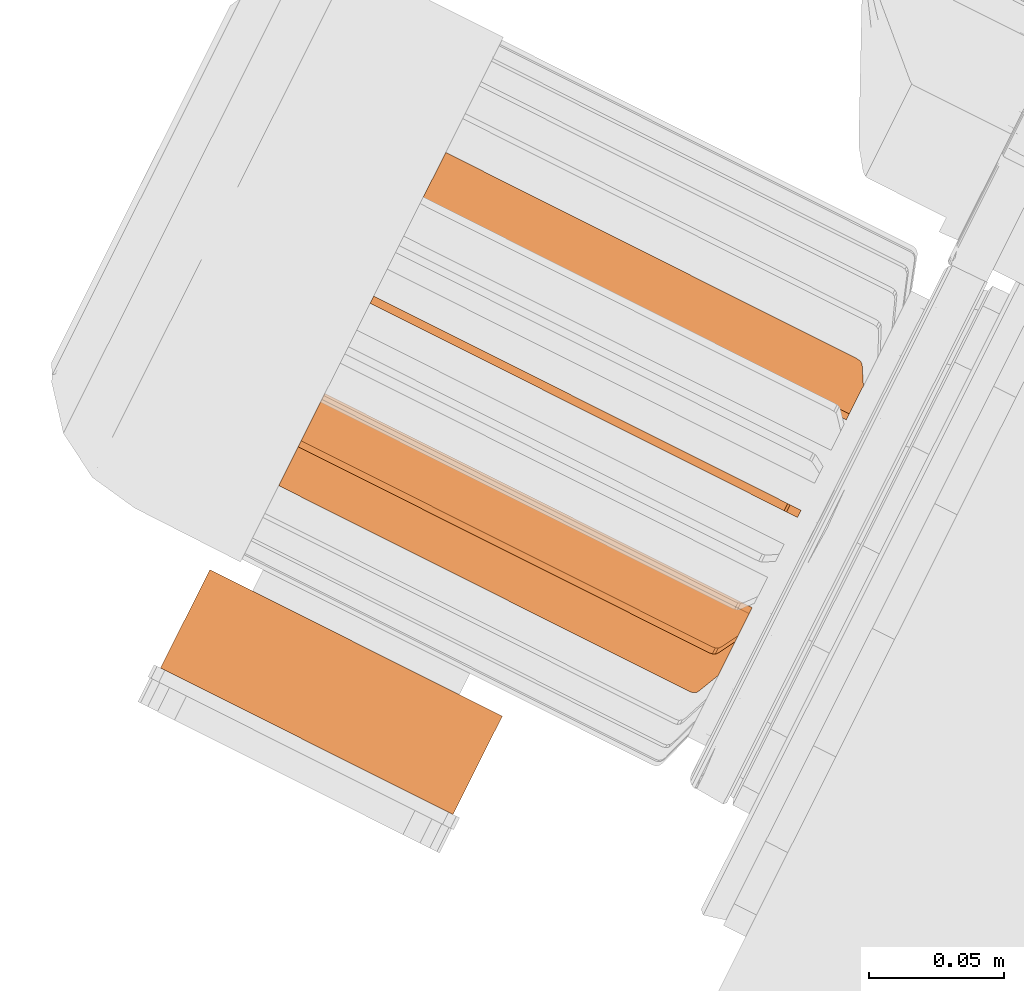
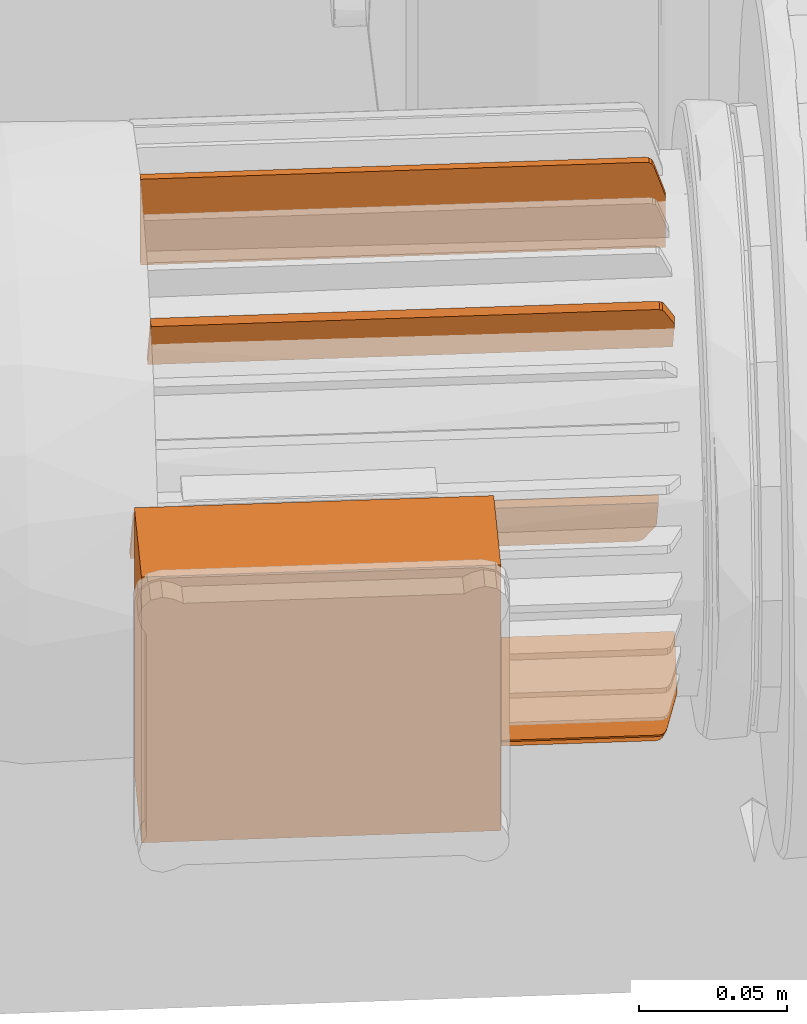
# One storey, part 177 of 206: 6 proxies.
"""IFC2X3 building model written with IfcOpenShell, lengths in metres."""

import ifcopenshell
import ifcopenshell.guid

model = None  # the IFC model being written
_history = None  # IfcOwnerHistory: only IFC2X3 demands one
_inside = {}  # id of a spatial element -> (the spatial element, [elements in it])
_under = {}  # id of a project, library or spatial element -> (it, [spatial elements below it])
_declared = {}  # id of a project -> (the project, [libraries it declares])
_typed = {}  # id of a type object -> (the type object, [elements of that type])
_made_of = {}  # id of a material, layer set ... -> (it, [elements and type objects made of it])


def new_model(schema):
    """Start an empty IFC model of exactly this schema.

    Asked for "IFC4X3", IfcOpenShell would pick the latest addendum, in which some entities
    have other attributes; the version numbers below select the first issue.
    IFC2X3 requires an IfcOwnerHistory on every rooted entity: one is made here for all.
    """
    global model, _history
    if schema == "IFC4X3":
        model = ifcopenshell.file(schema_version=(4, 3, 0, 0))
    else:
        model = ifcopenshell.file(schema=schema)
    _inside.clear()
    _under.clear()
    _declared.clear()
    _typed.clear()
    _made_of.clear()
    _history = None
    if model.schema == "IFC2X3":
        org = make("IfcOrganization", Name="unknown")
        user = make(
            "IfcPersonAndOrganization",
            ThePerson=make("IfcPerson", FamilyName="unknown"),
            TheOrganization=org,
        )
        app = make(
            "IfcApplication",
            ApplicationDeveloper=org,
            Version="unknown",
            ApplicationFullName="unknown",
            ApplicationIdentifier="unknown",
        )
        _history = make(
            "IfcOwnerHistory",
            OwningUser=user,
            OwningApplication=app,
            ChangeAction="ADDED",
            CreationDate=0,
        )
    return model


def make(cls, **values):
    """One entity of the class cls with the attributes given. An attribute that is None is left unset."""
    return model.create_entity(
        cls, **{name: value for name, value in values.items() if value is not None}
    )


def rooted(cls, **values):
    """An entity with a GlobalId (a new one), such as an element, a storey or a relation."""
    return make(cls, GlobalId=ifcopenshell.guid.new(), OwnerHistory=_history, **values)


def si_unit(unit_type, name, prefix=None):
    """IfcSIUnit, for example si_unit("LENGTHUNIT", "METRE", prefix="MILLI")."""
    return make("IfcSIUnit", UnitType=unit_type, Prefix=prefix, Name=name)


def derived_unit(unit_type, elements):
    """IfcDerivedUnit: a product of units, each with its exponent."""
    return make(
        "IfcDerivedUnit",
        Elements=[
            make("IfcDerivedUnitElement", Unit=unit, Exponent=power)
            for unit, power in elements
        ],
        UnitType=unit_type,
    )


def assignment(units):
    """IfcUnitAssignment: the units of a project."""
    return None if units is None else make("IfcUnitAssignment", Units=units)


def point(xyz):
    """IfcCartesianPoint."""
    return None if xyz is None else make("IfcCartesianPoint", Coordinates=xyz)


def direction(xyz):
    """IfcDirection."""
    return None if xyz is None else make("IfcDirection", DirectionRatios=xyz)


def frame(location, z_axis=None, x_axis=None):
    """IfcAxis2Placement3D, a coordinate frame: its origin and axes. An axis left out is left unset."""
    return make(
        "IfcAxis2Placement3D",
        Location=point(location),
        Axis=direction(z_axis),
        RefDirection=direction(x_axis),
    )


def origin():
    """The frame at (0, 0, 0) with its axes left unset."""
    return frame((0.0, 0.0, 0.0))


def place(relative_to, where):
    """IfcLocalPlacement: puts the frame where relative to a parent placement (None: the world)."""
    return make(
        "IfcLocalPlacement", PlacementRelTo=relative_to, RelativePlacement=where
    )


def context(
    kind, dimensions, precision=None, world=None, true_north=None, identifier=None
):
    """IfcGeometricRepresentationContext, for example the 3D "Model" context."""
    return make(
        "IfcGeometricRepresentationContext",
        ContextIdentifier=identifier,
        ContextType=kind,
        CoordinateSpaceDimension=dimensions,
        Precision=precision,
        WorldCoordinateSystem=world,
        TrueNorth=true_north,
    )


def subcontext(parent, identifier, kind, view, scale=None):
    """IfcGeometricRepresentationSubContext, for example "Body" below "Model"."""
    return make(
        "IfcGeometricRepresentationSubContext",
        ContextIdentifier=identifier,
        ContextType=kind,
        ParentContext=parent,
        TargetScale=scale,
        TargetView=view,
    )


def project(units=None, contexts=None):
    """IfcProject with its units and contexts."""
    return rooted(
        "IfcProject",
        Name="project",
        RepresentationContexts=contexts,
        UnitsInContext=assignment(units),
    )


def spatial(cls, under=None, at=None, **own):
    """A site, building, storey or space (cls), placed at a placement, below another one or the project."""
    s = rooted(cls, ObjectPlacement=at, **own)
    if under is not None:
        _under.setdefault(under.id(), (under, []))[1].append(s)
    return s


def faces_of(points, faces, orient=None, outer=None):
    """IfcFace entities. A face is a list of loops; a loop is a list of indices into points, from 0.

    orient and outer hold one flag for each loop. By default every Orientation is true, the
    first loop of a face is its IfcFaceOuterBound and the others are IfcFaceBound.
    """
    made = []
    for i, loops in enumerate(faces):
        bounds = []
        for j, loop in enumerate(loops):
            is_outer = j == 0 if outer is None else outer[i][j]
            bounds.append(
                make(
                    "IfcFaceOuterBound" if is_outer else "IfcFaceBound",
                    Bound=make("IfcPolyLoop", Polygon=[points[k] for k in loop]),
                    Orientation=True if orient is None else orient[i][j],
                )
            )
        made.append(make("IfcFace", Bounds=bounds))
    return made


def faceted_brep(points, faces, orient=None, outer=None, voids=None):
    """IfcFacetedBrep: a solid bounded by flat faces; with voids (closed shells), ...WithVoids."""
    shared = [point(p) for p in points]
    hull = make("IfcClosedShell", CfsFaces=faces_of(shared, faces, orient, outer))
    if voids is None:
        return make("IfcFacetedBrep", Outer=hull)
    return make(
        "IfcFacetedBrepWithVoids",
        Outer=hull,
        Voids=[
            make(cls, CfsFaces=faces_of(shared, fs, o, b)) for cls, fs, o, b in voids
        ],
    )


def shape(context_of_items, identifier, shape_type, items):
    """IfcShapeRepresentation: the items that make up one representation, for example the "Body"."""
    return make(
        "IfcShapeRepresentation",
        ContextOfItems=context_of_items,
        RepresentationIdentifier=identifier,
        RepresentationType=shape_type,
        Items=items,
    )


def source(mapping_origin, context_of_items, identifier, shape_type, items):
    """IfcRepresentationMap: a shape defined once, which mapped items show again and again."""
    return make(
        "IfcRepresentationMap",
        MappingOrigin=mapping_origin,
        MappedRepresentation=shape(context_of_items, identifier, shape_type, items),
    )


def transform(
    local_origin,
    x_axis=None,
    y_axis=None,
    z_axis=None,
    scale=None,
    scale2=None,
    scale3=None,
    uniform=True,
):
    """IfcCartesianTransformationOperator3D, or its non-uniform kind. x_axis, y_axis, z_axis: its Axis1, 2, 3."""
    if uniform:
        return make(
            "IfcCartesianTransformationOperator3D",
            Axis1=direction(x_axis),
            Axis2=direction(y_axis),
            LocalOrigin=point(local_origin),
            Scale=scale,
            Axis3=direction(z_axis),
        )
    return make(
        "IfcCartesianTransformationOperator3DnonUniform",
        Axis1=direction(x_axis),
        Axis2=direction(y_axis),
        LocalOrigin=point(local_origin),
        Scale=scale,
        Axis3=direction(z_axis),
        Scale2=scale2,
        Scale3=scale3,
    )


def mapped(mapping_source, mapping_target):
    """IfcMappedItem: shows the shape of a source again, moved by a transform."""
    return make(
        "IfcMappedItem", MappingSource=mapping_source, MappingTarget=mapping_target
    )


def material(Name=None, Category=None):
    """IfcMaterial."""
    return make("IfcMaterial", Name=Name, Category=Category)


def made_of(thing, what):
    """Note that an element or type object is made of a material, layer set ...; save() writes the relation."""
    if what is not None:
        _made_of.setdefault(what.id(), (what, []))[1].append(thing)
    return thing


def type_object(cls, material=None, **own):
    """A type object (cls), such as IfcWallType, which elements share."""
    return made_of(rooted(cls, **own), material)


def type_shapes(of_type, sources):
    """Give a type object the sources (RepresentationMaps) that its elements show as mapped items."""
    of_type.RepresentationMaps = sources


def element(
    cls,
    number,
    at=None,
    inside=None,
    cuts=None,
    type_object=None,
    material=None,
    context=None,
    identifier="Body",
    shape_type=None,
    held_by="IfcProductDefinitionShape",
    body=None,
    shapes=None,
    **own,
):
    """One element of the class cls, such as IfcWall. Its Tag is "e" and its number.

    at: its placement. inside: the storey or other place that contains it. cuts: it is an
    opening in that element (IfcRelVoidsElement). A single representation is given by context,
    identifier, shape_type and body (its items); several are given by shapes. held_by: the class
    of the entity that holds the representations. save() writes the other relations.
    """
    e = rooted(cls, Tag="e%d" % number, ObjectPlacement=at, **own)
    if body is not None:
        shapes = [shape(context, identifier, shape_type, body)]
    if shapes is not None:
        e.Representation = make(held_by, Representations=shapes)
    if inside is not None:
        _inside.setdefault(inside.id(), (inside, []))[1].append(e)
    if cuts is not None:
        rooted(
            "IfcRelVoidsElement", RelatingBuildingElement=cuts, RelatedOpeningElement=e
        )
    if type_object is not None:
        _typed.setdefault(type_object.id(), (type_object, []))[1].append(e)
    return made_of(e, material)


def aggregate(whole, parts):
    """IfcRelAggregates: a whole, such as a stair, and the parts it consists of."""
    return rooted("IfcRelAggregates", RelatingObject=whole, RelatedObjects=parts)


def save(model, path):
    """Write the relations noted so far, then the file.

    IfcRelAggregates (storeys below a building ...), IfcRelContainedInSpatialStructure (elements
    in a storey), IfcRelDefinesByType, IfcRelAssociatesMaterial and IfcRelDeclares: one each for
    every whole, place, type object, material and project.
    """
    for whole, parts in _under.values():
        aggregate(whole, parts)
    for where, things in _inside.values():
        rooted(
            "IfcRelContainedInSpatialStructure",
            RelatedElements=things,
            RelatingStructure=where,
        )
    for kind, things in _typed.values():
        rooted("IfcRelDefinesByType", RelatedObjects=things, RelatingType=kind)
    for what, things in _made_of.values():
        rooted("IfcRelAssociatesMaterial", RelatedObjects=things, RelatingMaterial=what)
    for by, libraries in _declared.values():
        rooted("IfcRelDeclares", RelatingContext=by, RelatedDefinitions=libraries)
    model.write(path)


model = new_model("IFC2X3")

# Units and contexts
model_context = context("Model", 3, precision=5.2338327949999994e-05, world=origin(), true_north=direction((0.0, 1.0)))
body_context = subcontext(model_context, "Body", "Model", "MODEL_VIEW")
ifc_project = project(units=[si_unit("LENGTHUNIT", "METRE"), si_unit("AREAUNIT", "SQUARE_METRE"), si_unit("VOLUMEUNIT", "CUBIC_METRE"), si_unit("MASSUNIT", "GRAM", prefix="KILO"), si_unit("PLANEANGLEUNIT", "RADIAN"), derived_unit("THERMALTRANSMITTANCEUNIT", [(si_unit("MASSUNIT", "GRAM", prefix="KILO"), 1), (si_unit("THERMODYNAMICTEMPERATUREUNIT", "KELVIN"), -1), (si_unit("TIMEUNIT", "SECOND"), -3)])], contexts=[model_context])

# Site, building, storey
site_placement = place(None, frame((0.0, 0.0, 0.0), z_axis=(0.0, 0.0, 1.0), x_axis=(0.8939966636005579, -0.4480736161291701, 0.0)))
site = spatial("IfcSite", under=ifc_project, at=site_placement, Name="Default", CompositionType="ELEMENT")
building_placement = place(site_placement, origin())
building = spatial("IfcBuilding", under=site, at=building_placement, CompositionType="ELEMENT")
storey_placement = place(building_placement, origin())
storey = spatial("IfcBuildingStorey", under=building, at=storey_placement, Name="Erdgeschoss", CompositionType="ELEMENT", Elevation=0.0)

# Proxies
ifc_material = material(Name="IfcSurfaceStyle #623543")
building_element_proxy_type_1 = type_object("IfcBuildingElementProxyType", Name="BuildingElementProxy 59:BuildingElementProxy 59", PredefinedType="NOTDEFINED", material=ifc_material)
shared_shape_1 = source(origin(), body_context, "Body", "Brep", [
    faceted_brep([(21.308483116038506, 4.200458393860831, 0.7594625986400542), (21.308483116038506, 4.200458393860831, 0.7804230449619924), (21.308483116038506, 4.197458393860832, 0.7594625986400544), (21.308483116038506, 4.197458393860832, 0.7804230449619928), (21.304532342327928, 4.200458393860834, 0.7927444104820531), (21.301675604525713, 4.200458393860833, 0.794828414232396), (21.130911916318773, 4.200458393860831, 0.7594625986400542), (21.130911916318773, 4.200458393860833, 0.794828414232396), (21.302899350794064, 4.200458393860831, 0.7945674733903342), (21.303910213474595, 4.200458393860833, 0.7938300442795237), (21.130911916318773, 4.197458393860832, 0.7594625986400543), (21.130911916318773, 4.197458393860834, 0.7948284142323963), (21.302899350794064, 4.197458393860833, 0.7945674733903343), (21.303910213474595, 4.197458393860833, 0.7938300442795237), (21.304532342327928, 4.197458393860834, 0.7927444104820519), (21.301675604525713, 4.197458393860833, 0.7948284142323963), (21.301675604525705, 4.198458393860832, 0.7948284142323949)], [[[0, 1, 2]], [[2, 1, 3]], [[4, 1, 5]], [[5, 1, 0]], [[5, 0, 6]], [[6, 7, 5]], [[5, 8, 4]], [[4, 8, 9]], [[0, 2, 6]], [[6, 2, 10]], [[7, 6, 11]], [[11, 6, 10]], [[12, 13, 8]], [[8, 13, 9]], [[13, 14, 9]], [[9, 14, 4]], [[3, 1, 14]], [[14, 1, 4]], [[10, 2, 15]], [[15, 2, 3]], [[15, 3, 14]], [[13, 12, 14]], [[14, 12, 15]], [[15, 11, 10]], [[5, 7, 16]], [[16, 7, 11]], [[16, 11, 15]], [[15, 12, 16]], [[16, 12, 8]], [[16, 8, 5]]]),
])
type_shapes(building_element_proxy_type_1, [shared_shape_1])
proxy_1_placement = place(storey_placement, origin())
element("IfcBuildingElementProxy", 1, at=proxy_1_placement, inside=storey, type_object=building_element_proxy_type_1, material=ifc_material, Name="BuildingElementProxy 59", context=body_context, shape_type="MappedRepresentation", body=[
    mapped(shared_shape_1, transform((0.0, 0.0, 0.0), scale=1.0)),
])
building_element_proxy_type_2 = type_object("IfcBuildingElementProxyType", Name="BuildingElementProxy 66:BuildingElementProxy 66", PredefinedType="NOTDEFINED", material=ifc_material)
shared_shape_2 = source(origin(), body_context, "Body", "Brep", [
    faceted_brep([(21.308483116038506, 4.146659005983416, 0.6368220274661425), (21.308483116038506, 4.131837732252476, 0.6220007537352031), (21.308483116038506, 4.148780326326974, 0.6347007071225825), (21.308483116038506, 4.133959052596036, 0.6198794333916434), (21.304532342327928, 4.1231252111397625, 0.613288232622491), (21.301675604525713, 4.121651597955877, 0.6118146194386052), (21.130911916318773, 4.146659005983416, 0.6368220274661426), (21.130911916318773, 4.121651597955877, 0.6118146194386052), (21.302899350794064, 4.121836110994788, 0.6119991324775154), (21.303910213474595, 4.122357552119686, 0.6125205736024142), (21.130911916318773, 4.148780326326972, 0.6347007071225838), (21.130911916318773, 4.123772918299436, 0.6096932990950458), (21.301675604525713, 4.123772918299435, 0.6096932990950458), (21.302899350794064, 4.123957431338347, 0.6098778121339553), (21.303910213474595, 4.1244788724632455, 0.610399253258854), (21.304532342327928, 4.125246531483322, 0.6111669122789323)], [[[0, 1, 2]], [[2, 1, 3]], [[4, 1, 5]], [[5, 1, 0]], [[5, 0, 6]], [[6, 7, 5]], [[5, 8, 4]], [[4, 8, 9]], [[0, 2, 6]], [[6, 2, 10]], [[7, 6, 11]], [[11, 6, 10]], [[7, 11, 5]], [[5, 11, 12]], [[12, 13, 5]], [[5, 13, 8]], [[13, 14, 8]], [[8, 14, 9]], [[14, 15, 9]], [[9, 15, 4]], [[3, 1, 15]], [[15, 1, 4]], [[10, 2, 12]], [[12, 2, 3]], [[12, 3, 15]], [[14, 13, 15]], [[15, 13, 12]], [[12, 11, 10]]]),
])
type_shapes(building_element_proxy_type_2, [shared_shape_2])
proxy_2_placement = place(storey_placement, origin())
element("IfcBuildingElementProxy", 2, at=proxy_2_placement, inside=storey, type_object=building_element_proxy_type_2, material=ifc_material, Name="BuildingElementProxy 66", context=body_context, shape_type="MappedRepresentation", body=[
    mapped(shared_shape_2, transform((0.0, 0.0, 0.0), scale=1.0)),
])
building_element_proxy_type_3 = type_object("IfcBuildingElementProxyType", Name="BuildingElementProxy 68:BuildingElementProxy 68", PredefinedType="NOTDEFINED", material=ifc_material)
shared_shape_3 = source(origin(), body_context, "Body", "Brep", [
    faceted_brep([(21.308483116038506, 4.157453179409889, 0.627583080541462), (21.308483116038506, 4.145808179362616, 0.6101551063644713), (21.308483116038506, 4.159947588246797, 0.6259163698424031), (21.308483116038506, 4.148302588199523, 0.6084883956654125), (21.304532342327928, 4.1389627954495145, 0.599910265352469), (21.301675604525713, 4.137804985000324, 0.5981774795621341), (21.130911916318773, 4.157453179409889, 0.6275830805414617), (21.130911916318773, 4.137804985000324, 0.5981774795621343), (21.302899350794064, 4.1379499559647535, 0.598394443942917), (21.303910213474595, 4.138359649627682, 0.5990075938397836), (21.130911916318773, 4.159947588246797, 0.6259163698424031), (21.130911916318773, 4.140299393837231, 0.5965107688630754), (21.301675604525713, 4.140299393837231, 0.5965107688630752), (21.302899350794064, 4.1404443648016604, 0.5967277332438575), (21.303910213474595, 4.140854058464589, 0.5973408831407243), (21.304532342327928, 4.141457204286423, 0.5982435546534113)], [[[0, 1, 2]], [[2, 1, 3]], [[4, 1, 5]], [[5, 1, 0]], [[5, 0, 6]], [[6, 7, 5]], [[5, 8, 4]], [[4, 8, 9]], [[0, 2, 6]], [[6, 2, 10]], [[7, 6, 11]], [[11, 6, 10]], [[7, 11, 5]], [[5, 11, 12]], [[12, 13, 5]], [[5, 13, 8]], [[13, 14, 8]], [[8, 14, 9]], [[14, 15, 9]], [[9, 15, 4]], [[3, 1, 15]], [[15, 1, 4]], [[10, 2, 12]], [[12, 2, 3]], [[12, 3, 15]], [[14, 13, 15]], [[15, 13, 12]], [[12, 11, 10]]]),
])
type_shapes(building_element_proxy_type_3, [shared_shape_3])
proxy_3_placement = place(storey_placement, origin())
element("IfcBuildingElementProxy", 3, at=proxy_3_placement, inside=storey, type_object=building_element_proxy_type_3, material=ifc_material, Name="BuildingElementProxy 68", context=body_context, shape_type="MappedRepresentation", body=[
    mapped(shared_shape_3, transform((0.0, 0.0, 0.0), scale=1.0)),
])
building_element_proxy_type_4 = type_object("IfcBuildingElementProxyType", Name="BuildingElementProxy 69:BuildingElementProxy 69", PredefinedType="NOTDEFINED", material=ifc_material)
shared_shape_4 = source(origin(), body_context, "Body", "Brep", [
    faceted_brep([(21.243535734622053, 4.041458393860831, 0.6308756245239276), (21.243535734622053, 4.082322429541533, 0.6308756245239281), (21.243535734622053, 4.041458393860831, 0.7403720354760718), (21.243535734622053, 4.082322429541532, 0.7403720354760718), (21.122039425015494, 4.082322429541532, 0.6308756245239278), (21.122039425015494, 4.082322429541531, 0.7403720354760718), (21.122039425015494, 4.041458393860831, 0.6308756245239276), (21.122039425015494, 4.041458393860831, 0.7403720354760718)], [[[0, 1, 2]], [[2, 1, 3]], [[1, 4, 3]], [[3, 4, 5]], [[0, 6, 1]], [[1, 6, 4]], [[3, 5, 2]], [[2, 5, 7]], [[2, 7, 0]], [[0, 7, 6]], [[4, 6, 5]], [[5, 6, 7]]]),
])
type_shapes(building_element_proxy_type_4, [shared_shape_4])
proxy_4_placement = place(storey_placement, origin())
element("IfcBuildingElementProxy", 4, at=proxy_4_placement, inside=storey, type_object=building_element_proxy_type_4, material=ifc_material, Name="BuildingElementProxy 69", context=body_context, shape_type="MappedRepresentation", body=[
    mapped(shared_shape_4, transform((0.0, 0.0, 0.0), scale=1.0)),
])
building_element_proxy_type_5 = type_object("IfcBuildingElementProxyType", Name="BuildingElementProxy 70:BuildingElementProxy 70", PredefinedType="NOTDEFINED", material=ifc_material)
shared_shape_5 = source(origin(), body_context, "Body", "Brep", [
    faceted_brep([(21.308483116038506, 4.237969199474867, 0.6259163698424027), (21.308483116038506, 4.249614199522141, 0.6084883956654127), (21.308483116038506, 4.240463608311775, 0.6275830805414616), (21.308483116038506, 4.252108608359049, 0.6101551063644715), (21.304532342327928, 4.256459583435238, 0.598243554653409), (21.301675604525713, 4.2576173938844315, 0.5965107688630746), (21.130911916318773, 4.237969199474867, 0.6259163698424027), (21.130911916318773, 4.2576173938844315, 0.5965107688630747), (21.302899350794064, 4.257472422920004, 0.5967277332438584), (21.303910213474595, 4.2570627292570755, 0.5973408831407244), (21.130911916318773, 4.240463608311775, 0.6275830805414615), (21.130911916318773, 4.260111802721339, 0.5981774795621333), (21.301675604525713, 4.260111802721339, 0.5981774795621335), (21.302899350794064, 4.259966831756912, 0.5983944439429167), (21.303910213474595, 4.2595571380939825, 0.5990075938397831), (21.304532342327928, 4.258953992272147, 0.5999102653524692)], [[[0, 1, 2]], [[2, 1, 3]], [[4, 1, 5]], [[5, 1, 0]], [[5, 0, 6]], [[6, 7, 5]], [[5, 8, 4]], [[4, 8, 9]], [[0, 2, 6]], [[6, 2, 10]], [[7, 6, 11]], [[11, 6, 10]], [[7, 11, 5]], [[5, 11, 12]], [[12, 13, 5]], [[5, 13, 8]], [[13, 14, 8]], [[8, 14, 9]], [[14, 15, 9]], [[9, 15, 4]], [[3, 1, 15]], [[15, 1, 4]], [[10, 2, 12]], [[12, 2, 3]], [[12, 3, 15]], [[14, 13, 15]], [[15, 13, 12]], [[12, 11, 10]]]),
])
type_shapes(building_element_proxy_type_5, [shared_shape_5])
proxy_5_placement = place(storey_placement, origin())
element("IfcBuildingElementProxy", 5, at=proxy_5_placement, inside=storey, type_object=building_element_proxy_type_5, material=ifc_material, Name="BuildingElementProxy 70", context=body_context, shape_type="MappedRepresentation", body=[
    mapped(shared_shape_5, transform((0.0, 0.0, 0.0), scale=1.0)),
])
building_element_proxy_type_6 = type_object("IfcBuildingElementProxyType", Name="BuildingElementProxy 77:BuildingElementProxy 77", PredefinedType="NOTDEFINED", material=ifc_material)
shared_shape_6 = source(origin(), body_context, "Body", "Brep", [
    faceted_brep([(21.308483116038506, 4.159947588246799, 0.7480838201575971), (21.308483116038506, 4.148302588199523, 0.7655117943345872), (21.308483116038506, 4.157453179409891, 0.7464171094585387), (21.308483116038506, 4.145808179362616, 0.7638450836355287), (21.304532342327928, 4.141457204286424, 0.7757566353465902), (21.301675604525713, 4.140299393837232, 0.7774894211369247), (21.130911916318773, 4.159947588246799, 0.748083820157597), (21.130911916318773, 4.140299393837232, 0.7774894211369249), (21.302899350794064, 4.1404443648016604, 0.777272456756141), (21.303910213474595, 4.14085405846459, 0.7766593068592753), (21.130911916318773, 4.157453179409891, 0.7464171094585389), (21.130911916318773, 4.137804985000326, 0.7758227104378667), (21.301675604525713, 4.137804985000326, 0.7758227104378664), (21.302899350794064, 4.137949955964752, 0.7756057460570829), (21.303910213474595, 4.138359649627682, 0.7749925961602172), (21.304532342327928, 4.138962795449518, 0.7740899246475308)], [[[0, 1, 2]], [[2, 1, 3]], [[4, 1, 5]], [[5, 1, 0]], [[5, 0, 6]], [[6, 7, 5]], [[5, 8, 4]], [[4, 8, 9]], [[0, 2, 6]], [[6, 2, 10]], [[7, 6, 11]], [[11, 6, 10]], [[7, 11, 5]], [[5, 11, 12]], [[12, 13, 5]], [[5, 13, 8]], [[13, 14, 8]], [[8, 14, 9]], [[14, 15, 9]], [[9, 15, 4]], [[3, 1, 15]], [[15, 1, 4]], [[10, 2, 12]], [[12, 2, 3]], [[12, 3, 15]], [[14, 13, 15]], [[15, 13, 12]], [[12, 11, 10]]]),
])
type_shapes(building_element_proxy_type_6, [shared_shape_6])
proxy_6_placement = place(storey_placement, origin())
element("IfcBuildingElementProxy", 6, at=proxy_6_placement, inside=storey, type_object=building_element_proxy_type_6, material=ifc_material, Name="BuildingElementProxy 77", context=body_context, shape_type="MappedRepresentation", body=[
    mapped(shared_shape_6, transform((0.0, 0.0, 0.0), scale=1.0)),
])

save(model, "model.ifc")
